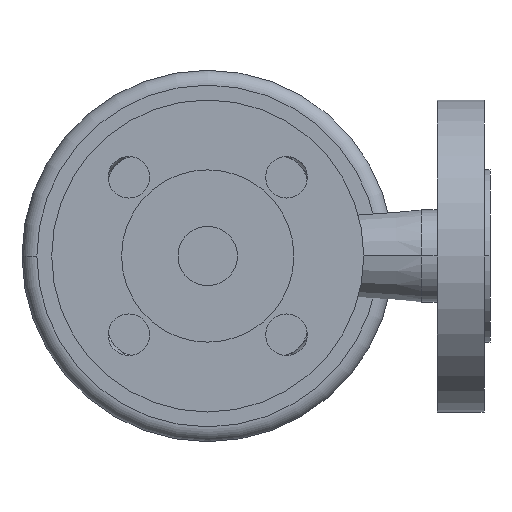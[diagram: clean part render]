
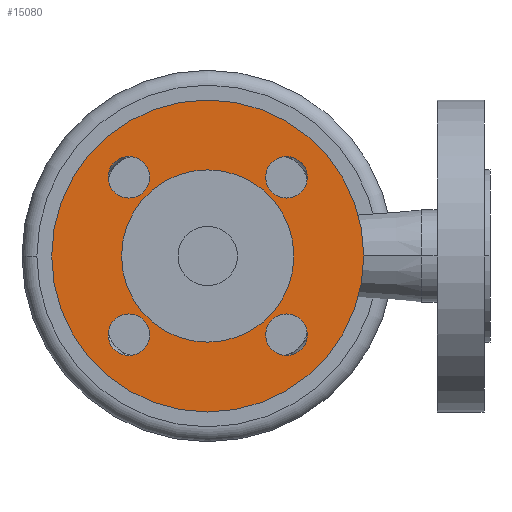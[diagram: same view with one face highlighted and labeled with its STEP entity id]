
A CAD part, front view. The second image highlights one B-rep face of the part: STEP entity #15080.
In plain terms, the highlighted planar face has unit normal (0, -1, 0).
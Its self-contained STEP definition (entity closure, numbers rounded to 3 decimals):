
#610=CARTESIAN_POINT('',(29.,2.,0.));
#620=VERTEX_POINT('',#610);
#650=CARTESIAN_POINT('',(0.,2.,0.));
#660=DIRECTION('',(0.,-1.,0.));
#670=DIRECTION('',(-1.,0.,0.));
#680=AXIS2_PLACEMENT_3D('',#650,#660,#670);
#690=CIRCLE('',#680,29.);
#700=CARTESIAN_POINT('',(-29.,2.,0.));
#710=VERTEX_POINT('',#700);
#720=EDGE_CURVE('',#710,#620,#690,.T.);
#3670=CARTESIAN_POINT('',(-52.5,2.,0.));
#3680=VERTEX_POINT('',#3670);
#3840=CARTESIAN_POINT('',(52.5,2.,0.));
#3850=VERTEX_POINT('',#3840);
#3880=CARTESIAN_POINT('',(0.,2.,0.));
#3890=DIRECTION('',(0.,1.,0.));
#3900=DIRECTION('',(1.,0.,0.));
#3910=AXIS2_PLACEMENT_3D('',#3880,#3890,#3900);
#3920=CIRCLE('',#3910,52.5);
#3930=EDGE_CURVE('',#3680,#3850,#3920,.T.);
#4160=CARTESIAN_POINT('',(19.517,2.,-26.517));
#4170=VERTEX_POINT('',#4160);
#4200=CARTESIAN_POINT('',(26.517,2.,-26.517));
#4210=DIRECTION('',(0.,1.,0.));
#4220=DIRECTION('',(1.,0.,0.));
#4230=AXIS2_PLACEMENT_3D('',#4200,#4210,#4220);
#4240=CIRCLE('',#4230,7.);
#4250=CARTESIAN_POINT('',(33.517,2.,-26.517));
#4260=VERTEX_POINT('',#4250);
#4270=EDGE_CURVE('',#4170,#4260,#4240,.T.);
#4650=CARTESIAN_POINT('',(33.517,2.,26.517));
#4660=VERTEX_POINT('',#4650);
#4690=CARTESIAN_POINT('',(26.517,2.,26.517));
#4700=DIRECTION('',(0.,1.,0.));
#4710=DIRECTION('',(1.,0.,0.));
#4720=AXIS2_PLACEMENT_3D('',#4690,#4700,#4710);
#4730=CIRCLE('',#4720,7.);
#4740=CARTESIAN_POINT('',(19.517,2.,26.517));
#4750=VERTEX_POINT('',#4740);
#4760=EDGE_CURVE('',#4660,#4750,#4730,.T.);
#5140=CARTESIAN_POINT('',(-19.517,2.,26.517));
#5150=VERTEX_POINT('',#5140);
#5180=CARTESIAN_POINT('',(-26.517,2.,26.517));
#5190=DIRECTION('',(0.,1.,0.));
#5200=DIRECTION('',(1.,0.,0.));
#5210=AXIS2_PLACEMENT_3D('',#5180,#5190,#5200);
#5220=CIRCLE('',#5210,7.);
#5230=CARTESIAN_POINT('',(-33.517,2.,26.517));
#5240=VERTEX_POINT('',#5230);
#5250=EDGE_CURVE('',#5150,#5240,#5220,.T.);
#5630=CARTESIAN_POINT('',(-19.517,2.,-26.517));
#5640=VERTEX_POINT('',#5630);
#5800=CARTESIAN_POINT('',(-33.517,2.,-26.517));
#5810=VERTEX_POINT('',#5800);
#5840=CARTESIAN_POINT('',(-26.517,2.,-26.517));
#5850=DIRECTION('',(0.,1.,0.));
#5860=DIRECTION('',(1.,0.,0.));
#5870=AXIS2_PLACEMENT_3D('',#5840,#5850,#5860);
#5880=CIRCLE('',#5870,7.);
#5890=EDGE_CURVE('',#5810,#5640,#5880,.T.);
#14730=CARTESIAN_POINT('',(0.,2.,0.));
#14740=DIRECTION('',(0.,1.,0.));
#14750=DIRECTION('',(0.,0.,1.));
#14760=AXIS2_PLACEMENT_3D('',#14730,#14740,#14750);
#14770=PLANE('',#14760);
#14780=EDGE_CURVE('',#5640,#5810,#5880,.T.);
#14790=ORIENTED_EDGE('',*,*,#14780,.T.);
#14800=ORIENTED_EDGE('',*,*,#5890,.T.);
#14810=EDGE_LOOP('',(#14800,#14790));
#14820=FACE_BOUND('',#14810,.T.);
#14830=EDGE_CURVE('',#5240,#5150,#5220,.T.);
#14840=ORIENTED_EDGE('',*,*,#14830,.T.);
#14850=ORIENTED_EDGE('',*,*,#5250,.T.);
#14860=EDGE_LOOP('',(#14850,#14840));
#14870=FACE_BOUND('',#14860,.T.);
#14880=ORIENTED_EDGE('',*,*,#4760,.T.);
#14890=EDGE_CURVE('',#4750,#4660,#4730,.T.);
#14900=ORIENTED_EDGE('',*,*,#14890,.T.);
#14910=EDGE_LOOP('',(#14900,#14880));
#14920=FACE_BOUND('',#14910,.T.);
#14930=ORIENTED_EDGE('',*,*,#4270,.T.);
#14940=EDGE_CURVE('',#4260,#4170,#4240,.T.);
#14950=ORIENTED_EDGE('',*,*,#14940,.T.);
#14960=EDGE_LOOP('',(#14950,#14930));
#14970=FACE_BOUND('',#14960,.T.);
#14980=EDGE_CURVE('',#3850,#3680,#3920,.T.);
#14990=ORIENTED_EDGE('',*,*,#14980,.F.);
#15000=ORIENTED_EDGE('',*,*,#3930,.F.);
#15010=EDGE_LOOP('',(#15000,#14990));
#15020=FACE_OUTER_BOUND('',#15010,.T.);
#15030=EDGE_CURVE('',#620,#710,#690,.T.);
#15040=ORIENTED_EDGE('',*,*,#15030,.F.);
#15050=ORIENTED_EDGE('',*,*,#720,.F.);
#15060=EDGE_LOOP('',(#15050,#15040));
#15070=FACE_BOUND('',#15060,.T.);
#15080=ADVANCED_FACE('',(#14820,#14870,#14920,#14970,#15020,#15070),
#14770,.F.);
